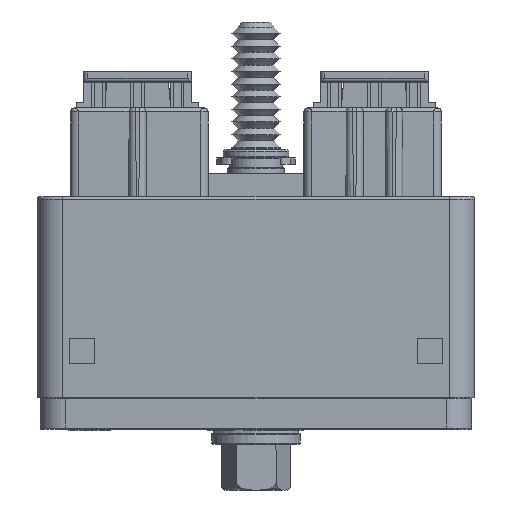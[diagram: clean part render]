
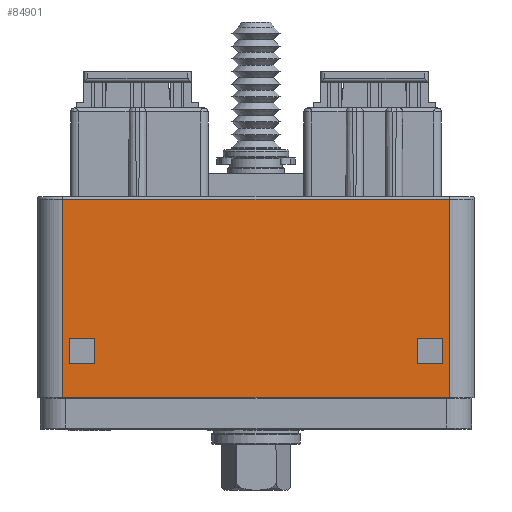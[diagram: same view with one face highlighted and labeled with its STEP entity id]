
A CAD part, front view. The second image highlights one B-rep face of the part: STEP entity #84901.
In plain terms, the highlighted planar face has unit normal (0, -1, 0).
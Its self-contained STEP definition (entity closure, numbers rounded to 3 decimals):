
#4912=DIRECTION('',(-1.,0.,0.));
#4913=VECTOR('',#4912,38.76);
#4914=CARTESIAN_POINT('',(19.38,-14.161,19.939));
#4915=LINE('',#4914,#4913);
#4947=DIRECTION('',(0.,0.,1.));
#4948=VECTOR('',#4947,19.939);
#4949=CARTESIAN_POINT('',(19.38,-14.161,0.));
#4950=LINE('',#4949,#4948);
#4951=DIRECTION('',(1.,0.,0.));
#4952=VECTOR('',#4951,38.76);
#4953=CARTESIAN_POINT('',(-19.38,-14.161,0.));
#4954=LINE('',#4953,#4952);
#4955=DIRECTION('',(0.,0.,-1.));
#4956=VECTOR('',#4955,19.939);
#4957=CARTESIAN_POINT('',(-19.38,-14.161,19.939));
#4958=LINE('',#4957,#4956);
#5098=DIRECTION('',(0.,0.,-1.));
#5099=VECTOR('',#5098,2.54);
#5100=CARTESIAN_POINT('',(-16.18,-14.161,5.969));
#5101=LINE('',#5100,#5099);
#5106=DIRECTION('',(-1.,0.,0.));
#5107=VECTOR('',#5106,2.54);
#5108=CARTESIAN_POINT('',(-16.18,-14.161,3.429));
#5109=LINE('',#5108,#5107);
#5118=DIRECTION('',(0.,0.,1.));
#5119=VECTOR('',#5118,2.54);
#5120=CARTESIAN_POINT('',(-18.72,-14.161,3.429));
#5121=LINE('',#5120,#5119);
#5130=DIRECTION('',(1.,0.,0.));
#5131=VECTOR('',#5130,2.54);
#5132=CARTESIAN_POINT('',(-18.72,-14.161,5.969));
#5133=LINE('',#5132,#5131);
#5146=DIRECTION('',(0.,0.,-1.));
#5147=VECTOR('',#5146,2.54);
#5148=CARTESIAN_POINT('',(16.18,-14.161,5.969));
#5149=LINE('',#5148,#5147);
#5154=DIRECTION('',(-1.,0.,0.));
#5155=VECTOR('',#5154,2.54);
#5156=CARTESIAN_POINT('',(18.72,-14.161,5.969));
#5157=LINE('',#5156,#5155);
#5170=DIRECTION('',(0.,0.,1.));
#5171=VECTOR('',#5170,2.54);
#5172=CARTESIAN_POINT('',(18.72,-14.161,3.429));
#5173=LINE('',#5172,#5171);
#5182=DIRECTION('',(1.,0.,0.));
#5183=VECTOR('',#5182,2.54);
#5184=CARTESIAN_POINT('',(16.18,-14.161,3.429));
#5185=LINE('',#5184,#5183);
#64020=CARTESIAN_POINT('',(19.38,-14.161,0.));
#64021=VERTEX_POINT('',#64020);
#64022=CARTESIAN_POINT('',(-19.38,-14.161,0.));
#64023=VERTEX_POINT('',#64022);
#64034=CARTESIAN_POINT('',(19.38,-14.161,19.939));
#64035=CARTESIAN_POINT('',(-19.38,-14.161,19.939));
#64036=VERTEX_POINT('',#64034);
#64037=VERTEX_POINT('',#64035);
#64038=CARTESIAN_POINT('',(-16.18,-14.161,5.969));
#64039=CARTESIAN_POINT('',(-16.18,-14.161,3.429));
#64040=VERTEX_POINT('',#64038);
#64041=VERTEX_POINT('',#64039);
#64042=CARTESIAN_POINT('',(-18.72,-14.161,5.969));
#64043=VERTEX_POINT('',#64042);
#64044=CARTESIAN_POINT('',(-18.72,-14.161,3.429));
#64045=VERTEX_POINT('',#64044);
#64046=CARTESIAN_POINT('',(16.18,-14.161,5.969));
#64047=CARTESIAN_POINT('',(16.18,-14.161,3.429));
#64048=VERTEX_POINT('',#64046);
#64049=VERTEX_POINT('',#64047);
#64050=CARTESIAN_POINT('',(18.72,-14.161,3.429));
#64051=VERTEX_POINT('',#64050);
#64052=CARTESIAN_POINT('',(18.72,-14.161,5.969));
#64053=VERTEX_POINT('',#64052);
#84869=CARTESIAN_POINT('',(0.,-14.161,9.97));
#84870=DIRECTION('',(0.,1.,0.));
#84871=DIRECTION('',(1.,0.,0.));
#84872=AXIS2_PLACEMENT_3D('',#84869,#84870,#84871);
#84873=PLANE('',#84872);
#84874=ORIENTED_EDGE('',*,*,#84775,.F.);
#84875=ORIENTED_EDGE('',*,*,#84857,.F.);
#84876=ORIENTED_EDGE('',*,*,#84599,.F.);
#84878=ORIENTED_EDGE('',*,*,#84877,.F.);
#84879=EDGE_LOOP('',(#84874,#84875,#84876,#84878));
#84880=FACE_OUTER_BOUND('',#84879,.F.);
#84882=ORIENTED_EDGE('',*,*,#84881,.F.);
#84884=ORIENTED_EDGE('',*,*,#84883,.F.);
#84886=ORIENTED_EDGE('',*,*,#84885,.F.);
#84888=ORIENTED_EDGE('',*,*,#84887,.F.);
#84889=EDGE_LOOP('',(#84882,#84884,#84886,#84888));
#84890=FACE_BOUND('',#84889,.F.);
#84892=ORIENTED_EDGE('',*,*,#84891,.T.);
#84894=ORIENTED_EDGE('',*,*,#84893,.T.);
#84896=ORIENTED_EDGE('',*,*,#84895,.T.);
#84898=ORIENTED_EDGE('',*,*,#84897,.T.);
#84899=EDGE_LOOP('',(#84892,#84894,#84896,#84898));
#84900=FACE_BOUND('',#84899,.F.);
#84901=ADVANCED_FACE('',(#84880,#84890,#84900),#84873,.F.);
#84599=EDGE_CURVE('',#64023,#64021,#4954,.T.);
#84775=EDGE_CURVE('',#64036,#64037,#4915,.T.);
#84857=EDGE_CURVE('',#64021,#64036,#4950,.T.);
#84877=EDGE_CURVE('',#64037,#64023,#4958,.T.);
#84881=EDGE_CURVE('',#64040,#64041,#5101,.T.);
#84883=EDGE_CURVE('',#64043,#64040,#5133,.T.);
#84885=EDGE_CURVE('',#64045,#64043,#5121,.T.);
#84887=EDGE_CURVE('',#64041,#64045,#5109,.T.);
#84891=EDGE_CURVE('',#64048,#64049,#5149,.T.);
#84893=EDGE_CURVE('',#64049,#64051,#5185,.T.);
#84895=EDGE_CURVE('',#64051,#64053,#5173,.T.);
#84897=EDGE_CURVE('',#64053,#64048,#5157,.T.);
